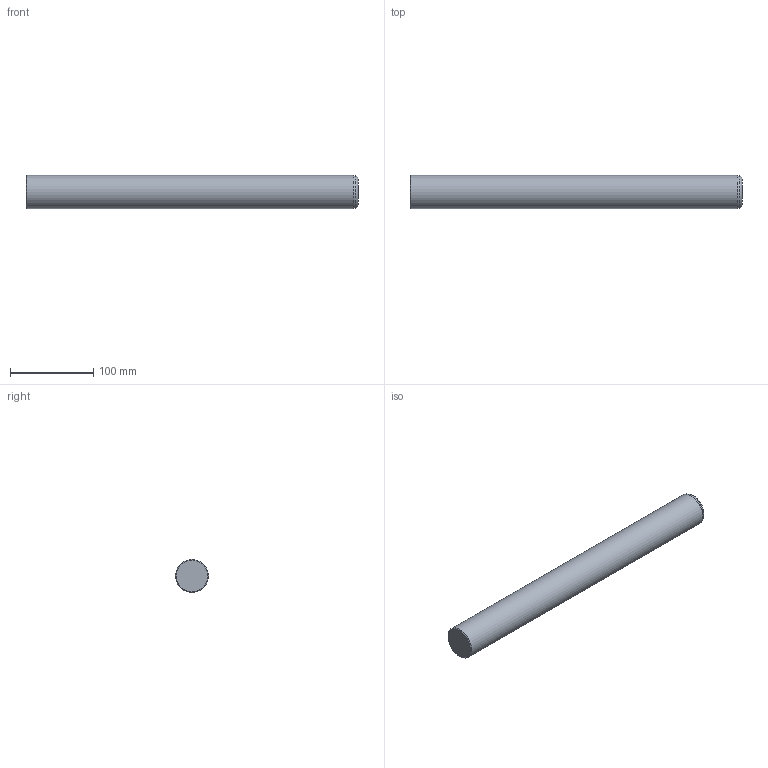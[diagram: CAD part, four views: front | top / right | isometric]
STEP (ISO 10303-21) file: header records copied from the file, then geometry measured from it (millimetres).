
FILE_DESCRIPTION(/* description */ ('Impex Ready, www.impex-ready.pl'),/* implementation_level */ '2;1');
FILE_NAME(/* name */ 'C:\Users\VIKKY\Nextcloud\SM\projekt 10 - części na stronę internetową\Pliki_3D_new\287 Słupy C4\287_C4_STEP\C440400.ipt.step',/* time_stamp */ '2021-12-20T14:24:49+01:00',/* author */ ('SM'),/* organization */ (''),/* preprocessor_version */ 'ST-DEVELOPER v18.1',/* originating_system */ 'Autodesk Inventor 2021',/* authorisation */ '');
FILE_SCHEMA (('AUTOMOTIVE_DESIGN { 1 0 10303 214 3 1 1 }'));
Length unit declared in the file: millimetre
Products named in the file (1): C440400
Bounding box: 400 x 40 x 40 mm (x, y, z)
Volume: 501944.3 mm3; surface area: 52424.2 mm2
Topology: 1 solids, 1 shells, 6 faces, 12 edges, 8 vertices
Faces by surface type: cone 2, plane 2, torus 1, cylinder 1
Full cylindrical faces by diameter (mm): 40 x1
Entity records: 239 total; most frequent: DIRECTION 35, CARTESIAN_POINT 27, ORIENTED_EDGE 24, AXIS2_PLACEMENT_3D 16, EDGE_CURVE 12, CIRCLE 9, VERTEX_POINT 8, STYLED_ITEM 7
